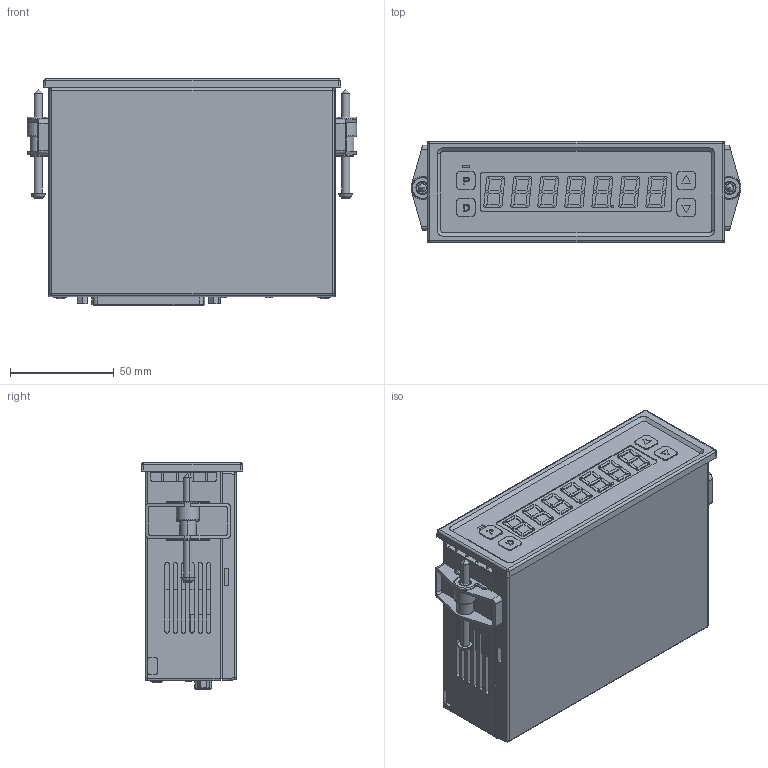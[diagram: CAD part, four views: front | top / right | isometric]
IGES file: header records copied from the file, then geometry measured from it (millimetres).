
Start section: SolidWorks IGES file using analytic representation for surfaces
Bounding box: 158.6 x 49 x 109 mm (x, y, z)
Surface area: 124759.6 mm2 (no closed solid volume)
Topology: 0 solids, 0 shells, 2288 faces, 20721 edges, 20699 vertices
Faces by surface type: bspline 1718, revolution 570
